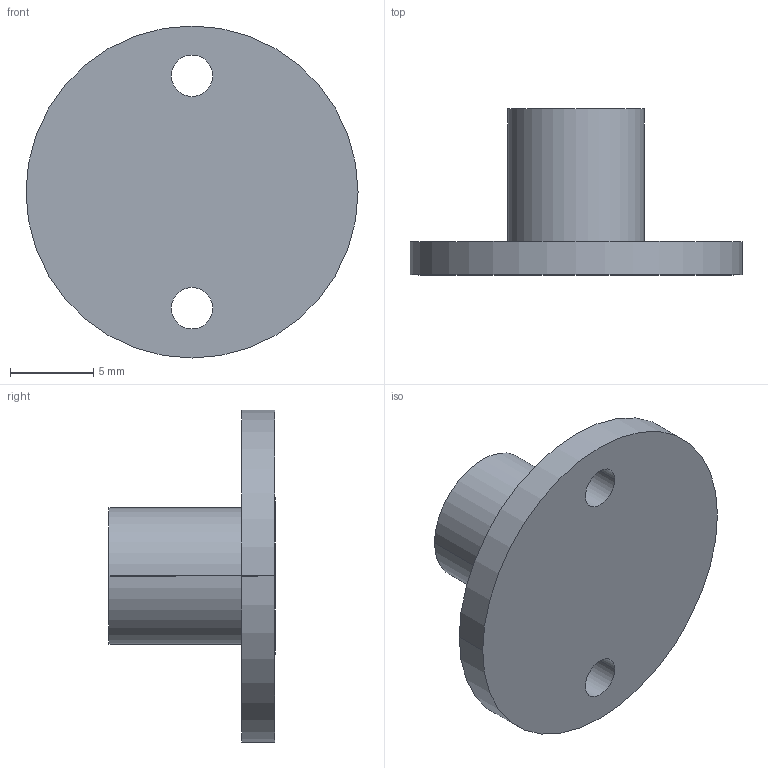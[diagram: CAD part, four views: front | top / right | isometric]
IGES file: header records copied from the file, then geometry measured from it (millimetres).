
Start section: START RECORD GO HERE.
Global section: file name: 14.igs; native system: DASSAULT SYSTEMES CATIA V5 R21 - www.3ds.com; preprocessor: CATIA Version 5 Release 21 ; author: E___; organization: MSI; date: 20160804.140143; units: millimetre
Bounding box: 20 x 10 x 20 mm (x, y, z)
Surface area: 1097.5 mm2 (no closed solid volume)
Topology: 0 solids, 0 shells, 14 faces, 60 edges, 60 vertices
Faces by surface type: revolution 10, plane 4
